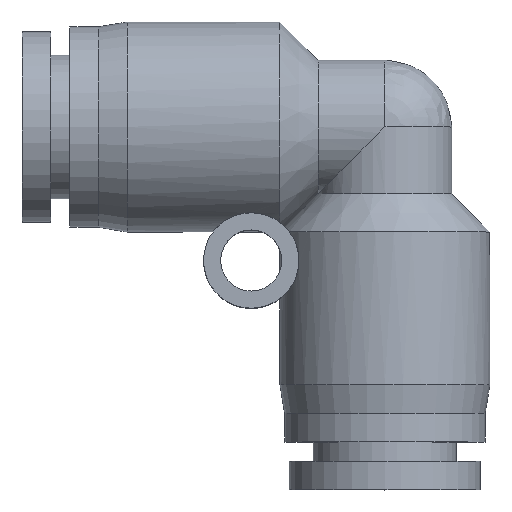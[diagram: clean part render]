
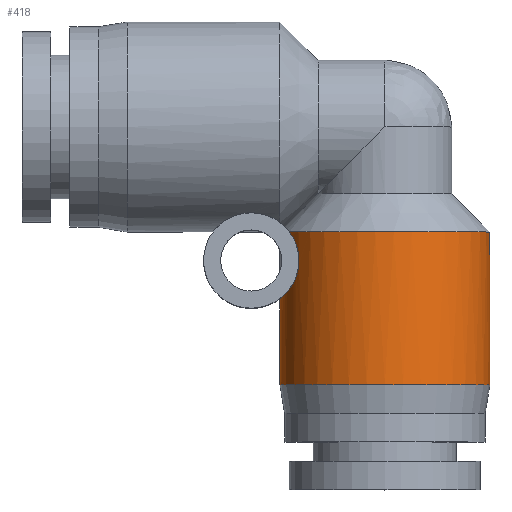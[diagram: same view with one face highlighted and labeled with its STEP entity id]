
A CAD part, top view. The second image highlights one B-rep face of the part: STEP entity #418.
In plain terms, the highlighted cylindrical face has radius 5.5 mm (diameter 11 mm), a full revolution.
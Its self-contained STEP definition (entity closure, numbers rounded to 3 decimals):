
#36=FACE_OUTER_BOUND($,#132,.T.);
#64=CIRCLE($,#458,5.5);
#65=CIRCLE($,#459,5.5);
#99=FACE_BOUND($,#133,.T.);
#132=EDGE_LOOP($,(#290));
#133=EDGE_LOOP($,(#291,#292));
#183=B_SPLINE_CURVE_WITH_KNOTS($,3,(#802,#803,#804,#805,#806,#807,#808,
#809,#810,#811,#812,#813,#814,#815,#816,#817,#818,#819,#820,#821,#822,#823,
#824,#825,#826,#827,#828,#829,#830,#831,#832,#833,#834,#835,#836,#837,#838,
#839,#840),.UNSPECIFIED.,.F.,.F.,(4,2,2,2,2,2,2,2,2,3,2,2,2,2,2,2,2,2,4),
(-0.61,-0.609,-0.529,-0.476,
-0.424,-0.371,-0.319,-0.239,
-0.16,0.,0.16,0.239,0.319,
0.371,0.424,0.476,0.529,
0.609,0.61),.UNSPECIFIED.);
#199=VERTEX_POINT($,#794);
#200=VERTEX_POINT($,#801);
#201=VERTEX_POINT($,#856);
#236=EDGE_CURVE($,#200,#199,#183,.T.);
#239=EDGE_CURVE($,#201,#201,#64,.T.);
#240=EDGE_CURVE($,#200,#199,#65,.T.);
#290=ORIENTED_EDGE($,*,*,#239,.T.);
#291=ORIENTED_EDGE($,*,*,#236,.T.);
#292=ORIENTED_EDGE($,*,*,#240,.F.);
#372=CYLINDRICAL_SURFACE($,#457,5.5);
#418=ADVANCED_FACE($,(#36,#99),#372,.T.);
#457=AXIS2_PLACEMENT_3D($,#855,#533,#534);
#458=AXIS2_PLACEMENT_3D($,#857,#535,#536);
#459=AXIS2_PLACEMENT_3D($,#858,#537,#538);
#533=DIRECTION('center_axis',(0.,1.,0.));
#534=DIRECTION('ref_axis',(-1.,0.,0.));
#535=DIRECTION('center_axis',(0.,1.,0.));
#536=DIRECTION('ref_axis',(-1.,0.,0.));
#537=DIRECTION('center_axis',(0.,1.,0.));
#538=DIRECTION('ref_axis',(-1.,0.,0.));
#794=CARTESIAN_POINT('',(-5.,-5.5,-2.291));
#801=CARTESIAN_POINT('',(-5.,-5.5,2.291));
#802=CARTESIAN_POINT('Ctrl Pts',(-5.,-5.5,2.291));
#803=CARTESIAN_POINT('Ctrl Pts',(-4.999,-5.501,2.294));
#804=CARTESIAN_POINT('Ctrl Pts',(-4.998,-5.503,2.296));
#805=CARTESIAN_POINT('Ctrl Pts',(-4.9,-5.633,2.508));
#806=CARTESIAN_POINT('Ctrl Pts',(-4.8,-5.793,2.692));
#807=CARTESIAN_POINT('Ctrl Pts',(-4.652,-6.129,2.936));
#808=CARTESIAN_POINT('Ctrl Pts',(-4.596,-6.29,3.021));
#809=CARTESIAN_POINT('Ctrl Pts',(-4.52,-6.638,3.135));
#810=CARTESIAN_POINT('Ctrl Pts',(-4.5,-6.825,3.162));
#811=CARTESIAN_POINT('Ctrl Pts',(-4.5,-7.175,3.162));
#812=CARTESIAN_POINT('Ctrl Pts',(-4.52,-7.362,3.135));
#813=CARTESIAN_POINT('Ctrl Pts',(-4.596,-7.71,3.021));
#814=CARTESIAN_POINT('Ctrl Pts',(-4.652,-7.871,2.936));
#815=CARTESIAN_POINT('Ctrl Pts',(-4.8,-8.207,2.692));
#816=CARTESIAN_POINT('Ctrl Pts',(-4.9,-8.367,2.508));
#817=CARTESIAN_POINT('Ctrl Pts',(-5.093,-8.625,2.089));
#818=CARTESIAN_POINT('Ctrl Pts',(-5.185,-8.723,1.853));
#819=CARTESIAN_POINT('Ctrl Pts',(-5.415,-8.945,1.098));
#820=CARTESIAN_POINT('Ctrl Pts',(-5.5,-9.,0.532));
#821=CARTESIAN_POINT('Ctrl Pts',(-5.5,-9.,0.));
#822=CARTESIAN_POINT('Ctrl Pts',(-5.5,-9.,-0.532));
#823=CARTESIAN_POINT('Ctrl Pts',(-5.415,-8.945,-1.098));
#824=CARTESIAN_POINT('Ctrl Pts',(-5.185,-8.723,-1.853));
#825=CARTESIAN_POINT('Ctrl Pts',(-5.093,-8.625,-2.089));
#826=CARTESIAN_POINT('Ctrl Pts',(-4.9,-8.367,-2.508));
#827=CARTESIAN_POINT('Ctrl Pts',(-4.8,-8.207,-2.692));
#828=CARTESIAN_POINT('Ctrl Pts',(-4.652,-7.871,-2.936));
#829=CARTESIAN_POINT('Ctrl Pts',(-4.596,-7.71,-3.021));
#830=CARTESIAN_POINT('Ctrl Pts',(-4.52,-7.362,-3.135));
#831=CARTESIAN_POINT('Ctrl Pts',(-4.5,-7.175,-3.162));
#832=CARTESIAN_POINT('Ctrl Pts',(-4.5,-6.825,-3.162));
#833=CARTESIAN_POINT('Ctrl Pts',(-4.52,-6.638,-3.135));
#834=CARTESIAN_POINT('Ctrl Pts',(-4.596,-6.29,-3.021));
#835=CARTESIAN_POINT('Ctrl Pts',(-4.652,-6.129,-2.936));
#836=CARTESIAN_POINT('Ctrl Pts',(-4.8,-5.793,-2.692));
#837=CARTESIAN_POINT('Ctrl Pts',(-4.9,-5.633,-2.508));
#838=CARTESIAN_POINT('Ctrl Pts',(-4.998,-5.503,-2.296));
#839=CARTESIAN_POINT('Ctrl Pts',(-4.999,-5.501,-2.294));
#840=CARTESIAN_POINT('Ctrl Pts',(-5.,-5.5,-2.291));
#855=CARTESIAN_POINT('Origin',(0.,-9.5,0.));
#856=CARTESIAN_POINT('',(-5.5,-13.5,0.));
#857=CARTESIAN_POINT('Origin',(0.,-13.5,0.));
#858=CARTESIAN_POINT('Origin',(0.,-5.5,0.));
